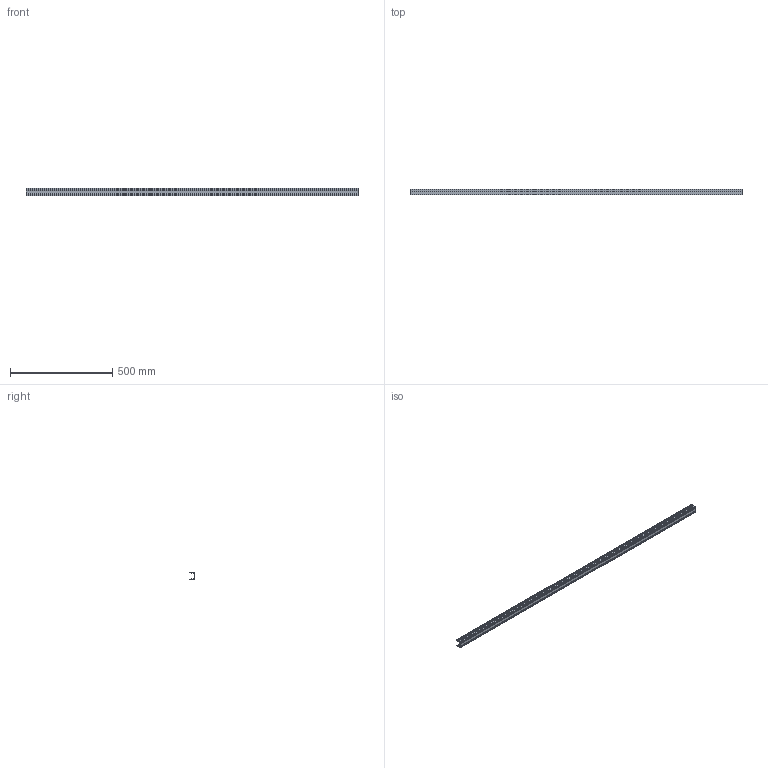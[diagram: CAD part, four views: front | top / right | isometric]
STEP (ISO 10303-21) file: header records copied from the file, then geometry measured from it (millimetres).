
FILE_DESCRIPTION( ( 'STEP AP203' ), '1' );
FILE_NAME( 'C:/Temp/Ganter_Step_05_03_2020/data/3_8/gn_646_3/Carrier profile GN 646.3-1620-A (15).stp', '2020-03-12T15:24:22', ( 'License CC BY-ND 4.0' ), ( 'CADENAS' ), ' ', 'PARTsolutions', ' ' );
FILE_SCHEMA( ( 'CONFIG_CONTROL_DESIGN' ) );
Length unit declared in the file: millimetre
Products named in the file (1): _Carrier profile GN 646.3-1620-A (15)
Bounding box: 1620 x 26.5 x 36 mm (x, y, z)
Volume: 272059.4 mm3; surface area: 340370.4 mm2
Topology: 1 solids, 1 shells, 112 faces, 330 edges, 220 vertices
Faces by surface type: plane 70, cylinder 42
Entity records: 3782 total; most frequent: CARTESIAN_POINT 663, ORIENTED_EDGE 660, DIRECTION 640, EDGE_CURVE 330, LINE 246, VECTOR 246, VERTEX_POINT 220, AXIS2_PLACEMENT_3D 197
